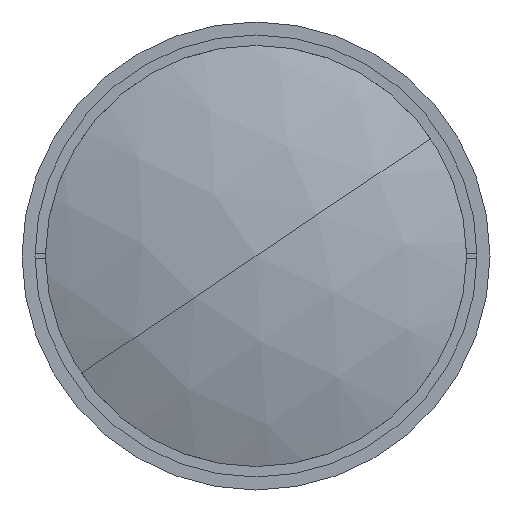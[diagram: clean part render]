
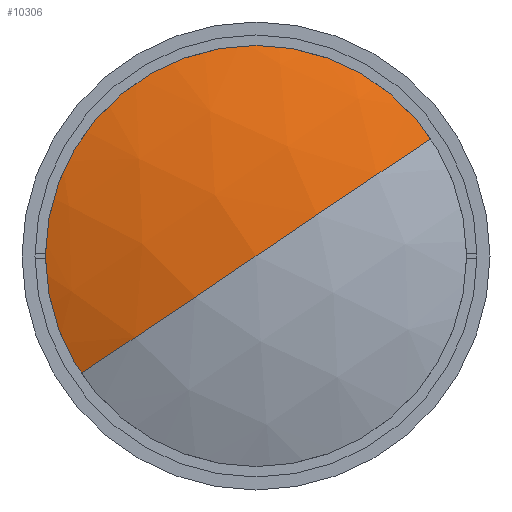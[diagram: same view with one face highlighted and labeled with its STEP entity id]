
A CAD part, left-side view. The second image highlights one B-rep face of the part: STEP entity #10306.
In plain terms, the highlighted spherical face has radius 111.8 mm.
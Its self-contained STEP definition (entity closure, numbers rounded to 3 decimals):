
#197 = DIRECTION ( 'NONE',  ( -1., 0., 0. ) ) ;
#953 = CIRCLE ( 'NONE', #8981, 111.8 ) ;
#1169 = SPHERICAL_SURFACE ( 'NONE', #7199, 111.8 ) ;
#1251 = EDGE_CURVE ( 'NONE', #6156, #5958, #6381, .T. ) ;
#2609 = CARTESIAN_POINT ( 'NONE',  ( 1.5, 0., 0. ) ) ;
#2736 = EDGE_LOOP ( 'NONE', ( #9948, #6828, #14141 ) ) ;
#2856 = DIRECTION ( 'NONE',  ( 0., -0.558, -0.83 ) ) ;
#3245 = AXIS2_PLACEMENT_3D ( 'NONE', #3301, #13548, #13920 ) ;
#3301 = CARTESIAN_POINT ( 'NONE',  ( 113.3, 0., 0. ) ) ;
#4111 = FACE_OUTER_BOUND ( 'NONE', #2736, .T. ) ;
#5551 = EDGE_CURVE ( 'NONE', #11720, #5958, #953, .T. ) ;
#5608 = CARTESIAN_POINT ( 'NONE',  ( 9.488, 34.435, -23.162 ) ) ;
#5810 = DIRECTION ( 'NONE',  ( 0., 0.558, 0.83 ) ) ;
#5958 = VERTEX_POINT ( 'NONE', #2609 ) ;
#6156 = VERTEX_POINT ( 'NONE', #5608 ) ;
#6381 = CIRCLE ( 'NONE', #3245, 111.8 ) ;
#6828 = ORIENTED_EDGE ( 'NONE', *, *, #1251, .T. ) ;
#6856 = CARTESIAN_POINT ( 'NONE',  ( 9.488, 0., 0. ) ) ;
#6923 = DIRECTION ( 'NONE',  ( 0., -0.83, 0.558 ) ) ;
#7199 = AXIS2_PLACEMENT_3D ( 'NONE', #12407, #5810, #6923 ) ;
#7859 = EDGE_CURVE ( 'NONE', #11720, #6156, #12918, .T. ) ;
#7981 = DIRECTION ( 'NONE',  ( 0., 0.558, 0.83 ) ) ;
#8981 = AXIS2_PLACEMENT_3D ( 'NONE', #9548, #2856, #10637 ) ;
#9548 = CARTESIAN_POINT ( 'NONE',  ( 113.3, 0., 0. ) ) ;
#9948 = ORIENTED_EDGE ( 'NONE', *, *, #7859, .T. ) ;
#10189 = CARTESIAN_POINT ( 'NONE',  ( 9.488, -34.435, 23.162 ) ) ;
#10306 = ADVANCED_FACE ( 'NONE', ( #4111 ), #1169, .T. ) ;
#10637 = DIRECTION ( 'NONE',  ( 0., 0.83, -0.558 ) ) ;
#11213 = AXIS2_PLACEMENT_3D ( 'NONE', #6856, #197, #7981 ) ;
#11720 = VERTEX_POINT ( 'NONE', #10189 ) ;
#12407 = CARTESIAN_POINT ( 'NONE',  ( 113.3, 0., 0. ) ) ;
#12918 = CIRCLE ( 'NONE', #11213, 41.5 ) ;
#13548 = DIRECTION ( 'NONE',  ( 0., 0.558, 0.83 ) ) ;
#13920 = DIRECTION ( 'NONE',  ( 0., -0.83, 0.558 ) ) ;
#14141 = ORIENTED_EDGE ( 'NONE', *, *, #5551, .F. ) ;
